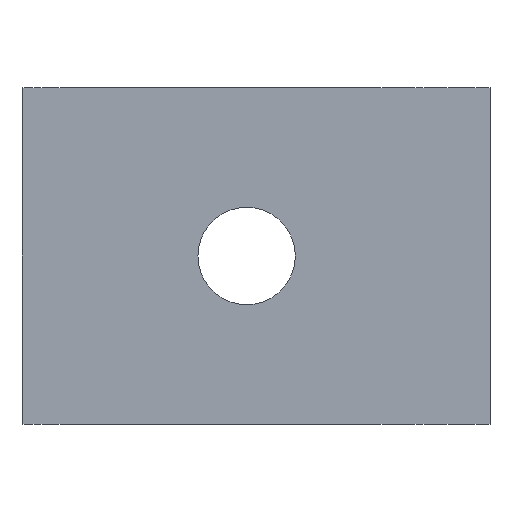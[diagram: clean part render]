
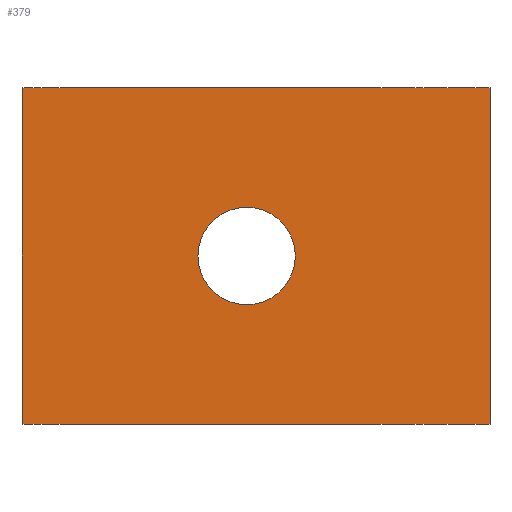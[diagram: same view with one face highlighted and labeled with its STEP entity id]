
A CAD part, front view. The second image highlights one B-rep face of the part: STEP entity #379.
In plain terms, the highlighted planar face has unit normal (0, -1, 0).
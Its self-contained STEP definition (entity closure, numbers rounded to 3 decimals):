
#4 = ORIENTED_EDGE ( 'NONE', *, *, #281, .T. ) ;
#10 = LINE ( 'NONE', #414, #351 ) ;
#15 = ORIENTED_EDGE ( 'NONE', *, *, #276, .F. ) ;
#17 = LINE ( 'NONE', #394, #416 ) ;
#27 = VERTEX_POINT ( 'NONE', #87 ) ;
#31 = CIRCLE ( 'NONE', #161, 2.6 ) ;
#35 = CARTESIAN_POINT ( 'NONE',  ( 0., -14., -6.4 ) ) ;
#46 = VERTEX_POINT ( 'NONE', #54 ) ;
#54 = CARTESIAN_POINT ( 'NONE',  ( 0., -14., -11.6 ) ) ;
#61 = FACE_OUTER_BOUND ( 'NONE', #101, .T. ) ;
#62 = VECTOR ( 'NONE', #372, 1000. ) ;
#63 = VERTEX_POINT ( 'NONE', #35 ) ;
#87 = CARTESIAN_POINT ( 'NONE',  ( -12., -14., 0. ) ) ;
#101 = EDGE_LOOP ( 'NONE', ( #201, #15, #4, #224 ) ) ;
#144 = AXIS2_PLACEMENT_3D ( 'NONE', #194, #154, #149 ) ;
#149 = DIRECTION ( 'NONE',  ( 0., 0., -1. ) ) ;
#154 = DIRECTION ( 'NONE',  ( 0., -1., 0. ) ) ;
#161 = AXIS2_PLACEMENT_3D ( 'NONE', #228, #226, #223 ) ;
#164 = EDGE_LOOP ( 'NONE', ( #388, #266 ) ) ;
#166 = CIRCLE ( 'NONE', #193, 2.6 ) ;
#193 = AXIS2_PLACEMENT_3D ( 'NONE', #392, #389, #387 ) ;
#194 = CARTESIAN_POINT ( 'NONE',  ( -12., -14., -18. ) ) ;
#199 = VECTOR ( 'NONE', #383, 1000. ) ;
#201 = ORIENTED_EDGE ( 'NONE', *, *, #273, .F. ) ;
#205 = PLANE ( 'NONE',  #144 ) ;
#212 = VERTEX_POINT ( 'NONE', #446 ) ;
#221 = CARTESIAN_POINT ( 'NONE',  ( -12., -14., -18. ) ) ;
#223 = DIRECTION ( 'NONE',  ( 0., 0., -1. ) ) ;
#224 = ORIENTED_EDGE ( 'NONE', *, *, #261, .T. ) ;
#226 = DIRECTION ( 'NONE',  ( 0., -1., 0. ) ) ;
#228 = CARTESIAN_POINT ( 'NONE',  ( 0., -14., -9. ) ) ;
#261 = EDGE_CURVE ( 'NONE', #285, #212, #10, .T. ) ;
#266 = ORIENTED_EDGE ( 'NONE', *, *, #314, .F. ) ;
#270 = EDGE_CURVE ( 'NONE', #46, #63, #166, .T. ) ;
#273 = EDGE_CURVE ( 'NONE', #27, #212, #17, .T. ) ;
#276 = EDGE_CURVE ( 'NONE', #322, #27, #343, .T. ) ;
#281 = EDGE_CURVE ( 'NONE', #322, #285, #386, .T. ) ;
#285 = VERTEX_POINT ( 'NONE', #360 ) ;
#314 = EDGE_CURVE ( 'NONE', #63, #46, #31, .T. ) ;
#322 = VERTEX_POINT ( 'NONE', #221 ) ;
#343 = LINE ( 'NONE', #385, #199 ) ;
#351 = VECTOR ( 'NONE', #403, 1000. ) ;
#360 = CARTESIAN_POINT ( 'NONE',  ( 13., -14., -18. ) ) ;
#372 = DIRECTION ( 'NONE',  ( 1., 0., 0. ) ) ;
#379 = ADVANCED_FACE ( 'NONE', ( #422, #61 ), #205, .T. ) ;
#381 = CARTESIAN_POINT ( 'NONE',  ( -12., -14., -18. ) ) ;
#383 = DIRECTION ( 'NONE',  ( 0., 0., 1. ) ) ;
#385 = CARTESIAN_POINT ( 'NONE',  ( -12., -14., -18. ) ) ;
#386 = LINE ( 'NONE', #381, #62 ) ;
#387 = DIRECTION ( 'NONE',  ( 0., 0., -1. ) ) ;
#388 = ORIENTED_EDGE ( 'NONE', *, *, #270, .F. ) ;
#389 = DIRECTION ( 'NONE',  ( 0., -1., 0. ) ) ;
#392 = CARTESIAN_POINT ( 'NONE',  ( 0., -14., -9. ) ) ;
#394 = CARTESIAN_POINT ( 'NONE',  ( -12., -14., 0. ) ) ;
#395 = DIRECTION ( 'NONE',  ( 1., 0., 0. ) ) ;
#403 = DIRECTION ( 'NONE',  ( 0., 0., 1. ) ) ;
#414 = CARTESIAN_POINT ( 'NONE',  ( 13., -14., -18. ) ) ;
#416 = VECTOR ( 'NONE', #395, 1000. ) ;
#422 = FACE_BOUND ( 'NONE', #164, .T. ) ;
#446 = CARTESIAN_POINT ( 'NONE',  ( 13., -14., 0. ) ) ;
